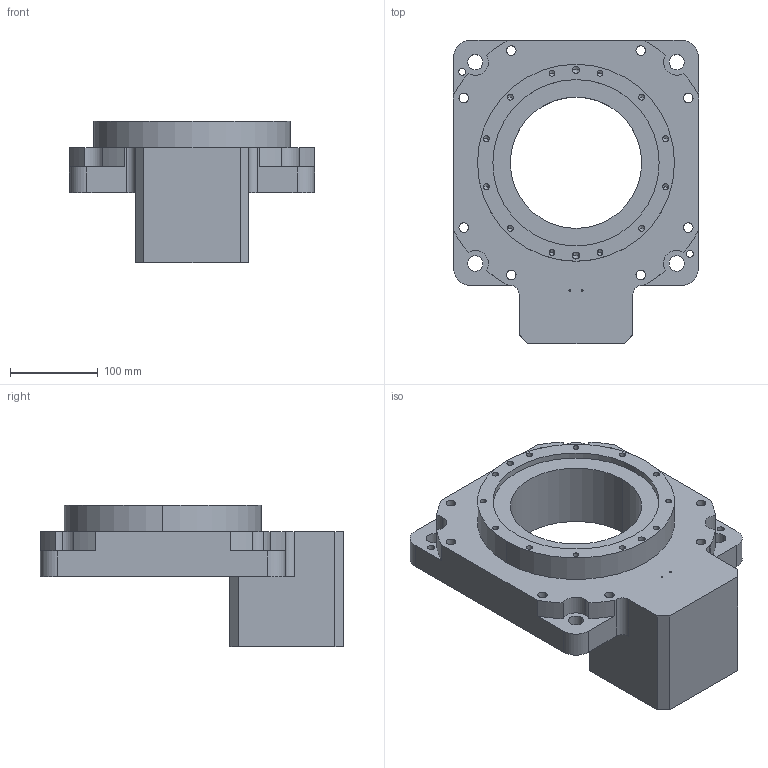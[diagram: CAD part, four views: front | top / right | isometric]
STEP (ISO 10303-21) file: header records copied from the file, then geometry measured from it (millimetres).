
FILE_DESCRIPTION (( 'STEP AP203' ), '1' );
FILE_NAME ('KTN280-10-侜督.step', '2022-06-21T08:06:51', ( '' ), ( '' ), 'SwSTEP 2.0', 'SolidWorks 2020', '' );
FILE_SCHEMA (( 'CONFIG_CONTROL_DESIGN' ));
Length unit declared in the file: millimetre
Products named in the file (1): KTN280-10-侜督
Bounding box: 280 x 346.5 x 161.5 mm (x, y, z)
Volume: 5068462.3 mm3; surface area: 334163.8 mm2
Topology: 1 solids, 1 shells, 162 faces, 428 edges, 252 vertices
Faces by surface type: cylinder 98, cone 40, plane 24
Entity records: 4905 total; most frequent: DIRECTION 910, CARTESIAN_POINT 803, ORIENTED_EDGE 776, EDGE_CURVE 388, AXIS2_PLACEMENT_3D 359, VERTEX_POINT 252, EDGE_LOOP 216, CIRCLE 196
